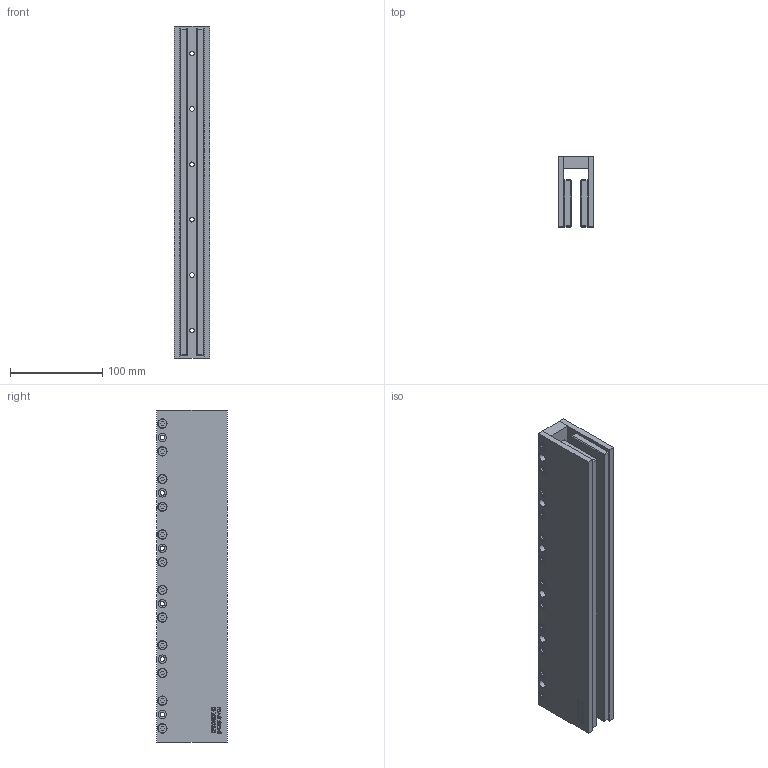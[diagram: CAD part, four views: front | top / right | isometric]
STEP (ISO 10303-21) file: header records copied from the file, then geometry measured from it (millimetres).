
FILE_DESCRIPTION (( 'STEP AP214' ), '1' );
FILE_NAME ('DX50B-TL360.STEP', '2016-05-11T09:35:26', ( '' ), ( '' ), 'SwSTEP 2.0', 'SolidWorks 2015', '' );
FILE_SCHEMA (( 'AUTOMOTIVE_DESIGN' ));
Length unit declared in the file: millimetre
Products named in the file (5): DX50B-TL360-001_TL360; DX50B-TL360; DX50B-0000-001_CUSTOMER_TL360; M6X12 DIN7984 STAINLESS STEEL; DX50B-TL360-002_TL360
Assembly tree (29 placements, depth 2):
  DX50B-TL360
    DX50B-TL360-001_TL360
    DX50B-TL360-002_TL360  x2
    M6X12 DIN7984 STAINLESS STEEL  x24
    DX50B-0000-001_CUSTOMER_TL360  x2
Bounding box: 38.7 x 76.2 x 359.5 mm (x, y, z)
Volume: 742190.5 mm3; surface area: 254953.3 mm2
Topology: 29 solids, 29 shells, 1296 faces, 3160 edges, 2028 vertices
Faces by surface type: plane 622, cylinder 312, bspline 250, cone 48, torus 48, sphere 16
Entity records: 22786 total; most frequent: CARTESIAN_POINT 10254, ORIENTED_EDGE 2512, DIRECTION 2028, EDGE_CURVE 1256, VERTEX_POINT 808, LINE 728, VECTOR 728, AXIS2_PLACEMENT_3D 650
